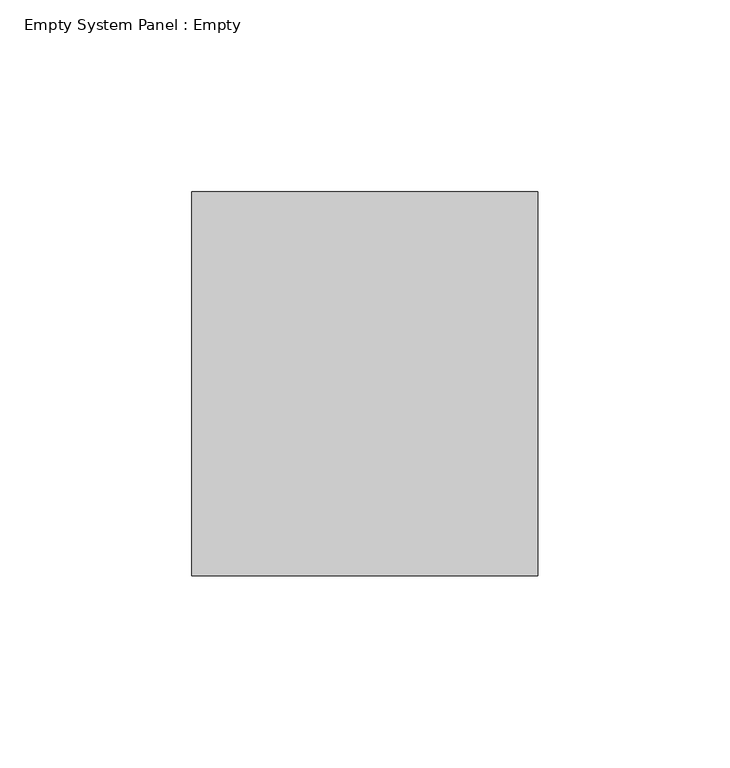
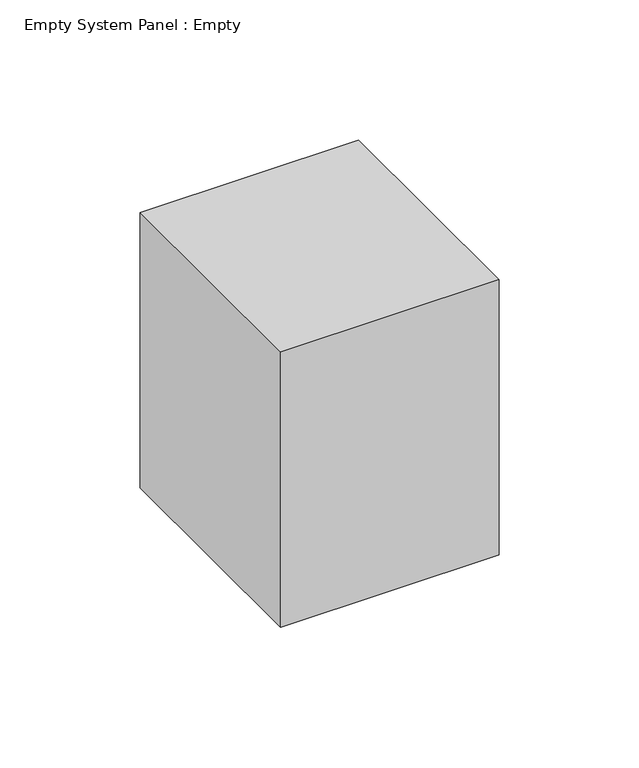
"""IFC4 building model written with IfcOpenShell, lengths in millimetres: plate geometry, Empty System Panel : Empty."""

from ifc_helpers import new_model, si_unit, origin, origin_with_axes, place, context, project, spatial, polyline, outline, extrude, source, transform, mapped, element, save


def empty_system_panel_empty_93201dac(model_context):
    return source(origin(), model_context, "Body", "SweptSolid", [
        extrude(outline(polyline([(44.9999998, 50.0), (-44.9999998, 50.0), (-44.9999998, 150.0), (44.9999998, 150.0), (44.9999998, 50.0)])), origin_with_axes(), (0.0, 0.0, 1.0), 120.0),
    ])


if __name__ == "__main__":
    model = new_model("IFC4")
    model_context = context("Model", 3, world=origin())
    ifc_project = project(units=[si_unit("LENGTHUNIT", "METRE", prefix="MILLI")], contexts=[model_context])
    site = spatial("IfcSite", under=ifc_project)
    building = spatial("IfcBuilding", under=site)
    placement = place(None, origin())
    empty_system_panel_empty_shape = empty_system_panel_empty_93201dac(model_context)
    element("IfcPlate", 1, ObjectType="Empty System Panel : Empty", at=placement, inside=building, context=model_context, shape_type="MappedRepresentation", body=[
        mapped(empty_system_panel_empty_shape, transform((0.0, 0.0, 0.0), x_axis=(1.0, 0.0, 0.0), y_axis=(0.0, 1.0, 0.0), z_axis=(0.0, 0.0, 1.0))),
    ])
    save(model, "model.ifc")
